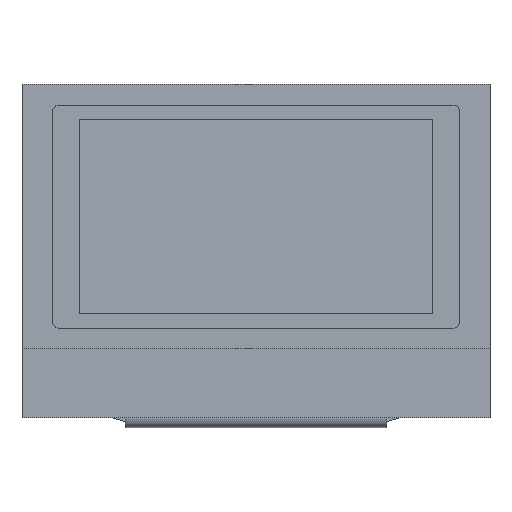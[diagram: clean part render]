
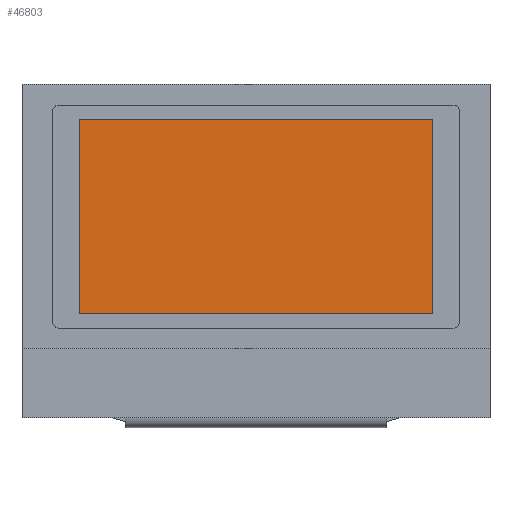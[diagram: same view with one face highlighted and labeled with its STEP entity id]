
A CAD part, top view. The second image highlights one B-rep face of the part: STEP entity #46803.
In plain terms, the highlighted planar face has unit normal (0, 0, 1).
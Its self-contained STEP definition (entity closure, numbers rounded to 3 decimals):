
#2566 = VECTOR ( 'NONE', #69182, 1000. ) ;
#3011 = ORIENTED_EDGE ( 'NONE', *, *, #60996, .F. ) ;
#3022 = PLANE ( 'NONE',  #57868 ) ;
#3854 = LINE ( 'NONE', #85622, #81701 ) ;
#4749 = EDGE_CURVE ( 'NONE', #12253, #85679, #85440, .T. ) ;
#6771 = CARTESIAN_POINT ( 'NONE',  ( 12.79, 7.03, 1.8 ) ) ;
#10249 = DIRECTION ( 'NONE',  ( 1., 0., 0. ) ) ;
#11601 = FACE_OUTER_BOUND ( 'NONE', #74313, .T. ) ;
#12253 = VERTEX_POINT ( 'NONE', #37865 ) ;
#13879 = DIRECTION ( 'NONE',  ( 1., 0., 0. ) ) ;
#17664 = LINE ( 'NONE', #46453, #62619 ) ;
#24326 = VERTEX_POINT ( 'NONE', #6771 ) ;
#30253 = ORIENTED_EDGE ( 'NONE', *, *, #76400, .F. ) ;
#31454 = CARTESIAN_POINT ( 'NONE',  ( 0., 0., 1.8 ) ) ;
#37865 = CARTESIAN_POINT ( 'NONE',  ( 12.79, -7.03, 1.8 ) ) ;
#39474 = VERTEX_POINT ( 'NONE', #57074 ) ;
#40670 = LINE ( 'NONE', #61883, #2566 ) ;
#41980 = EDGE_CURVE ( 'NONE', #39474, #24326, #17664, .T. ) ;
#46453 = CARTESIAN_POINT ( 'NONE',  ( 0., 7.03, 1.8 ) ) ;
#46803 = ADVANCED_FACE ( 'NONE', ( #11601 ), #3022, .T. ) ;
#47998 = ORIENTED_EDGE ( 'NONE', *, *, #4749, .F. ) ;
#57074 = CARTESIAN_POINT ( 'NONE',  ( -12.79, 7.03, 1.8 ) ) ;
#57868 = AXIS2_PLACEMENT_3D ( 'NONE', #31454, #72069, #10249 ) ;
#59377 = CARTESIAN_POINT ( 'NONE',  ( -12.79, -7.03, 1.8 ) ) ;
#59533 = CARTESIAN_POINT ( 'NONE',  ( 0., -7.03, 1.8 ) ) ;
#59725 = DIRECTION ( 'NONE',  ( 0., 1., 0. ) ) ;
#60436 = VECTOR ( 'NONE', #87216, 1000. ) ;
#60996 = EDGE_CURVE ( 'NONE', #85679, #39474, #3854, .T. ) ;
#61883 = CARTESIAN_POINT ( 'NONE',  ( 12.79, 0., 1.8 ) ) ;
#62619 = VECTOR ( 'NONE', #13879, 1000. ) ;
#69182 = DIRECTION ( 'NONE',  ( 0., -1., 0. ) ) ;
#72069 = DIRECTION ( 'NONE',  ( 0., 0., 1. ) ) ;
#74313 = EDGE_LOOP ( 'NONE', ( #3011, #47998, #30253, #78424 ) ) ;
#76400 = EDGE_CURVE ( 'NONE', #24326, #12253, #40670, .T. ) ;
#78424 = ORIENTED_EDGE ( 'NONE', *, *, #41980, .F. ) ;
#81701 = VECTOR ( 'NONE', #59725, 1000. ) ;
#85440 = LINE ( 'NONE', #59533, #60436 ) ;
#85622 = CARTESIAN_POINT ( 'NONE',  ( -12.79, 0., 1.8 ) ) ;
#85679 = VERTEX_POINT ( 'NONE', #59377 ) ;
#87216 = DIRECTION ( 'NONE',  ( -1., 0., 0. ) ) ;
